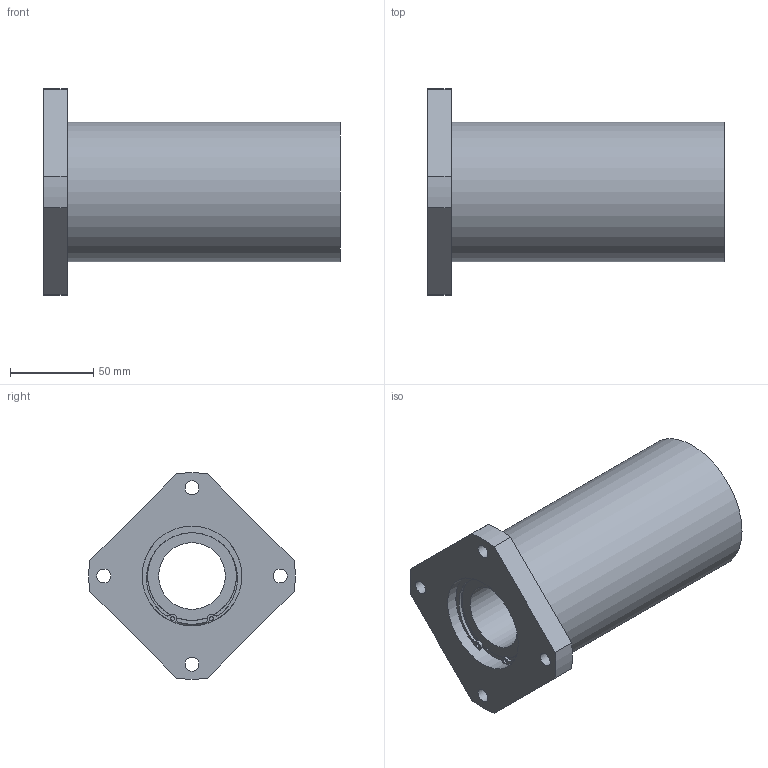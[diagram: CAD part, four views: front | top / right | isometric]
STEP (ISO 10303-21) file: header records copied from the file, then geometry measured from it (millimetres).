
FILE_DESCRIPTION((''),'2;1');
FILE_NAME('D:\製品 (図面)\カタログ用3D\リニアベアリング関連(改)\STEP形式\LFWK\LFWK40.stp','2010-01-22T16:00:10',('Tsuchiya'),(''),'Autodesk Inventor 10','Autodesk Inventor 10','');
FILE_SCHEMA(('AUTOMOTIVE_DESIGN { 1 0 10303 214 1 1 1 1 }'));
Length unit declared in the file: millimetre
Products named in the file (1): LFWK40
Bounding box: 178 x 123.84 x 123.84 mm (x, y, z)
Volume: 787883.7 mm3; surface area: 100714.6 mm2
Topology: 1 solids, 6 shells, 86 faces, 212 edges, 133 vertices
Faces by surface type: bspline 31, cylinder 28, plane 25, torus 2
Full cylindrical faces by diameter (mm): 2.5 x2, 8.376 x4, 40 x1, 53.4 x2, 57 x2, 60 x7, 84 x1
Entity records: 2578 total; most frequent: CARTESIAN_POINT 698, DIRECTION 398, ORIENTED_EDGE 330, AXIS2_PLACEMENT_3D 177, EDGE_CURVE 165, EDGE_LOOP 144, CIRCLE 121, VERTEX_POINT 117
